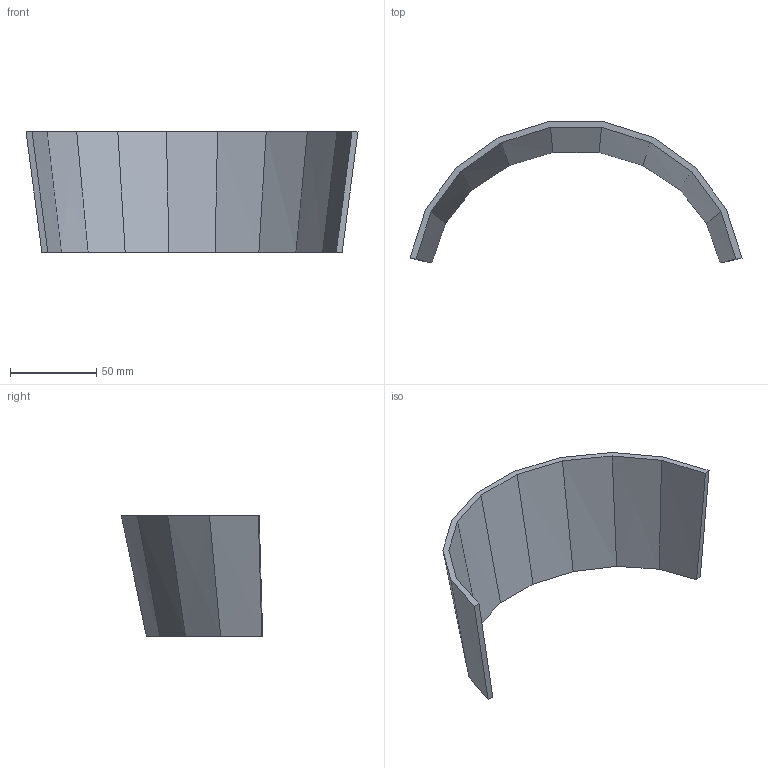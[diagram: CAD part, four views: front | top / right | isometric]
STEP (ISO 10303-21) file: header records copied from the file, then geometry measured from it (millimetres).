
FILE_DESCRIPTION(('Open CASCADE Model'),'2;1');
FILE_NAME('Open CASCADE Shape Model','2026-09-19T23:46:40',('Author'),( 'Open CASCADE'),'Open CASCADE STEP processor 7.9','Open CASCADE 7.9' ,'Unknown');
FILE_SCHEMA(('AUTOMOTIVE_DESIGN { 1 0 10303 214 1 1 1 1 }'));
Length unit declared in the file: millimetre
Products named in the file (1): Open CASCADE STEP translator 7.9 75
Bounding box: 192.77 x 82.09 x 70 mm (x, y, z)
Volume: 60735.7 mm3; surface area: 37934.2 mm2
Topology: 1 solids, 1 shells, 22 faces, 60 edges, 40 vertices
Faces by surface type: bspline 20, plane 2
Entity records: 1376 total; most frequent: CARTESIAN_POINT 401, ORIENTED_EDGE 120, PCURVE 120, DEFINITIONAL_REPRESENTATION 120, B_SPLINE_CURVE_WITH_KNOTS 98, DIRECTION 88, LINE 82, VECTOR 82
